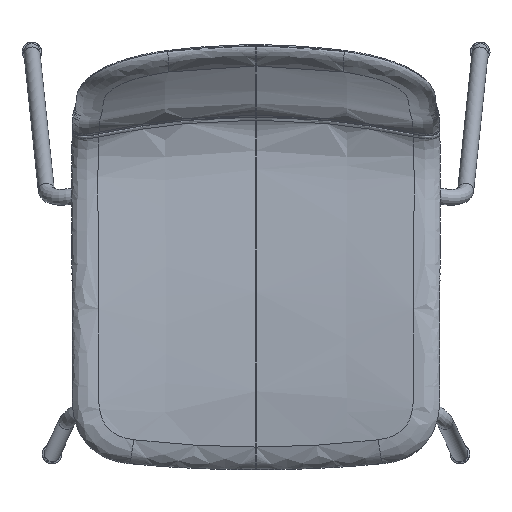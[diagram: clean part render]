
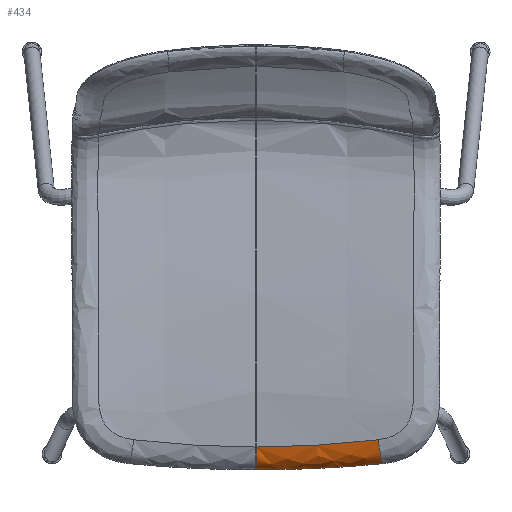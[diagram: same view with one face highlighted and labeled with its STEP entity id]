
A CAD part, top view. The second image highlights one B-rep face of the part: STEP entity #434.
In plain terms, the highlighted free-form (B-spline) face has degree [4, 3] with [5, 10] control points.
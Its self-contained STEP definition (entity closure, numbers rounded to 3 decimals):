
#434=ADVANCED_FACE('',(#1356),#14760,.T.);
#1356=FACE_OUTER_BOUND('',#2278,.T.);
#2278=EDGE_LOOP('',(#3294,#3295,#3296,#3297));
#3294=ORIENTED_EDGE('',*,*,#8050,.F.);
#3295=ORIENTED_EDGE('',*,*,#8051,.F.);
#3296=ORIENTED_EDGE('',*,*,#8045,.F.);
#3297=ORIENTED_EDGE('',*,*,#8049,.F.);
#8045=EDGE_CURVE('',#12731,#12732,#10457,.T.);
#8049=EDGE_CURVE('',#12736,#12731,#10461,.T.);
#8050=EDGE_CURVE('',#12735,#12736,#10462,.T.);
#8051=EDGE_CURVE('',#12732,#12735,#10463,.T.);
#10457=B_SPLINE_CURVE_WITH_KNOTS('',3,(#22404,#22405,#22406,#22407,#22408,
#22409,#22410,#22411,#22412,#22413),.UNSPECIFIED.,.F.,.F.,(4,2,2,2,4),(-156.197,
-117.148,-78.099,-39.049,0.),.UNSPECIFIED.);
#10461=B_SPLINE_CURVE_WITH_KNOTS('',4,(#22430,#22431,#22432,#22433,#22434),
 .UNSPECIFIED.,.F.,.F.,(5,5),(0.,44.131),.UNSPECIFIED.);
#10462=B_SPLINE_CURVE_WITH_KNOTS('',3,(#22435,#22436,#22437,#22438,#22439,
#22440,#22441,#22442,#22443,#22444),.UNSPECIFIED.,.F.,.F.,(4,2,2,2,4),(0.,
39.049,78.099,117.148,156.197),
 .UNSPECIFIED.);
#10463=B_SPLINE_CURVE_WITH_KNOTS('',4,(#22445,#22446,#22447,#22448,#22449),
 .UNSPECIFIED.,.F.,.F.,(5,5),(-44.131,0.),.UNSPECIFIED.);
#12731=VERTEX_POINT('',#22323);
#12732=VERTEX_POINT('',#22324);
#12735=VERTEX_POINT('',#22327);
#12736=VERTEX_POINT('',#22328);
#14760=B_SPLINE_SURFACE_WITH_KNOTS('',4,3,((#17877,#17878,#17879,#17880,
#17881,#17882,#17883,#17884,#17885,#17886),(#17887,#17888,#17889,#17890,
#17891,#17892,#17893,#17894,#17895,#17896),(#17897,#17898,#17899,#17900,
#17901,#17902,#17903,#17904,#17905,#17906),(#17907,#17908,#17909,#17910,
#17911,#17912,#17913,#17914,#17915,#17916),(#17917,#17918,#17919,#17920,
#17921,#17922,#17923,#17924,#17925,#17926)),.UNSPECIFIED.,.F.,.F.,.F.,(5,
5),(4,2,2,2,4),(0.,44.131),(0.,39.049,78.099,
117.148,156.197),.UNSPECIFIED.);
#17877=CARTESIAN_POINT('',(0.,-220.144,455.823));
#17878=CARTESIAN_POINT('',(12.773,-220.037,455.84));
#17879=CARTESIAN_POINT('',(25.547,-219.882,456.074));
#17880=CARTESIAN_POINT('',(51.069,-219.154,457.017));
#17881=CARTESIAN_POINT('',(63.813,-218.578,457.726));
#17882=CARTESIAN_POINT('',(89.249,-217.061,459.583));
#17883=CARTESIAN_POINT('',(101.94,-216.121,460.73));
#17884=CARTESIAN_POINT('',(127.243,-213.826,463.429));
#17885=CARTESIAN_POINT('',(139.852,-212.471,464.977));
#17886=CARTESIAN_POINT('',(152.434,-211.077,466.688));
#17887=CARTESIAN_POINT('',(0.,-233.744,453.592));
#17888=CARTESIAN_POINT('',(12.95,-233.744,453.592));
#17889=CARTESIAN_POINT('',(25.842,-233.521,453.871));
#17890=CARTESIAN_POINT('',(51.714,-232.816,454.93));
#17891=CARTESIAN_POINT('',(64.62,-232.264,455.727));
#17892=CARTESIAN_POINT('',(90.356,-230.783,457.812));
#17893=CARTESIAN_POINT('',(103.173,-229.857,459.098));
#17894=CARTESIAN_POINT('',(128.86,-227.561,462.139));
#17895=CARTESIAN_POINT('',(141.292,-226.243,463.832));
#17896=CARTESIAN_POINT('',(154.322,-224.743,465.786));
#17897=CARTESIAN_POINT('',(0.,-247.178,450.35));
#17898=CARTESIAN_POINT('',(13.137,-247.178,450.35));
#17899=CARTESIAN_POINT('',(26.158,-246.996,450.66));
#17900=CARTESIAN_POINT('',(52.401,-246.33,451.868));
#17901=CARTESIAN_POINT('',(65.479,-245.811,452.775));
#17902=CARTESIAN_POINT('',(91.53,-244.388,455.153));
#17903=CARTESIAN_POINT('',(104.48,-243.487,456.618));
#17904=CARTESIAN_POINT('',(130.557,-241.217,460.098));
#17905=CARTESIAN_POINT('',(142.814,-239.948,461.986));
#17906=CARTESIAN_POINT('',(156.29,-238.357,464.261));
#17907=CARTESIAN_POINT('',(0.,-253.878,428.515));
#17908=CARTESIAN_POINT('',(13.37,-253.878,428.515));
#17909=CARTESIAN_POINT('',(26.743,-253.753,428.859));
#17910=CARTESIAN_POINT('',(53.444,-253.168,430.243));
#17911=CARTESIAN_POINT('',(66.774,-252.733,431.276));
#17912=CARTESIAN_POINT('',(93.351,-251.549,433.977));
#17913=CARTESIAN_POINT('',(106.598,-250.797,435.645));
#17914=CARTESIAN_POINT('',(132.981,-248.97,439.538));
#17915=CARTESIAN_POINT('',(146.116,-247.893,441.763));
#17916=CARTESIAN_POINT('',(159.185,-246.614,444.222));
#17917=CARTESIAN_POINT('',(0.,-244.424,431.298));
#17918=CARTESIAN_POINT('',(13.258,-244.424,431.298));
#17919=CARTESIAN_POINT('',(26.517,-244.281,431.613));
#17920=CARTESIAN_POINT('',(52.998,-243.695,432.859));
#17921=CARTESIAN_POINT('',(66.222,-243.253,433.791));
#17922=CARTESIAN_POINT('',(92.599,-242.056,436.234));
#17923=CARTESIAN_POINT('',(105.753,-241.299,437.745));
#17924=CARTESIAN_POINT('',(131.969,-239.455,441.285));
#17925=CARTESIAN_POINT('',(145.029,-238.366,443.314));
#17926=CARTESIAN_POINT('',(158.035,-237.111,445.561));
#22323=CARTESIAN_POINT('',(158.035,-237.111,445.561));
#22324=CARTESIAN_POINT('',(0.,-244.424,431.298));
#22327=CARTESIAN_POINT('',(0.,-220.144,455.823));
#22328=CARTESIAN_POINT('',(152.434,-211.077,466.688));
#22404=CARTESIAN_POINT('',(158.035,-237.111,445.561));
#22405=CARTESIAN_POINT('',(145.029,-238.366,443.314));
#22406=CARTESIAN_POINT('',(131.969,-239.455,441.285));
#22407=CARTESIAN_POINT('',(105.753,-241.299,437.745));
#22408=CARTESIAN_POINT('',(92.599,-242.056,436.234));
#22409=CARTESIAN_POINT('',(66.222,-243.253,433.791));
#22410=CARTESIAN_POINT('',(52.998,-243.695,432.859));
#22411=CARTESIAN_POINT('',(26.517,-244.281,431.613));
#22412=CARTESIAN_POINT('',(13.258,-244.424,431.298));
#22413=CARTESIAN_POINT('',(0.,-244.424,431.298));
#22430=CARTESIAN_POINT('',(152.434,-211.077,466.688));
#22431=CARTESIAN_POINT('',(154.322,-224.743,465.786));
#22432=CARTESIAN_POINT('',(156.29,-238.357,464.261));
#22433=CARTESIAN_POINT('',(159.185,-246.614,444.222));
#22434=CARTESIAN_POINT('',(158.035,-237.111,445.561));
#22435=CARTESIAN_POINT('',(0.,-220.144,455.823));
#22436=CARTESIAN_POINT('',(12.773,-220.037,455.84));
#22437=CARTESIAN_POINT('',(25.547,-219.882,456.074));
#22438=CARTESIAN_POINT('',(51.069,-219.154,457.017));
#22439=CARTESIAN_POINT('',(63.813,-218.578,457.726));
#22440=CARTESIAN_POINT('',(89.249,-217.061,459.583));
#22441=CARTESIAN_POINT('',(101.94,-216.121,460.73));
#22442=CARTESIAN_POINT('',(127.243,-213.826,463.429));
#22443=CARTESIAN_POINT('',(139.852,-212.471,464.977));
#22444=CARTESIAN_POINT('',(152.434,-211.077,466.688));
#22445=CARTESIAN_POINT('',(0.,-244.424,431.298));
#22446=CARTESIAN_POINT('',(0.,-253.878,428.515));
#22447=CARTESIAN_POINT('',(0.,-247.178,450.35));
#22448=CARTESIAN_POINT('',(0.,-233.744,453.592));
#22449=CARTESIAN_POINT('',(0.,-220.144,455.823));
